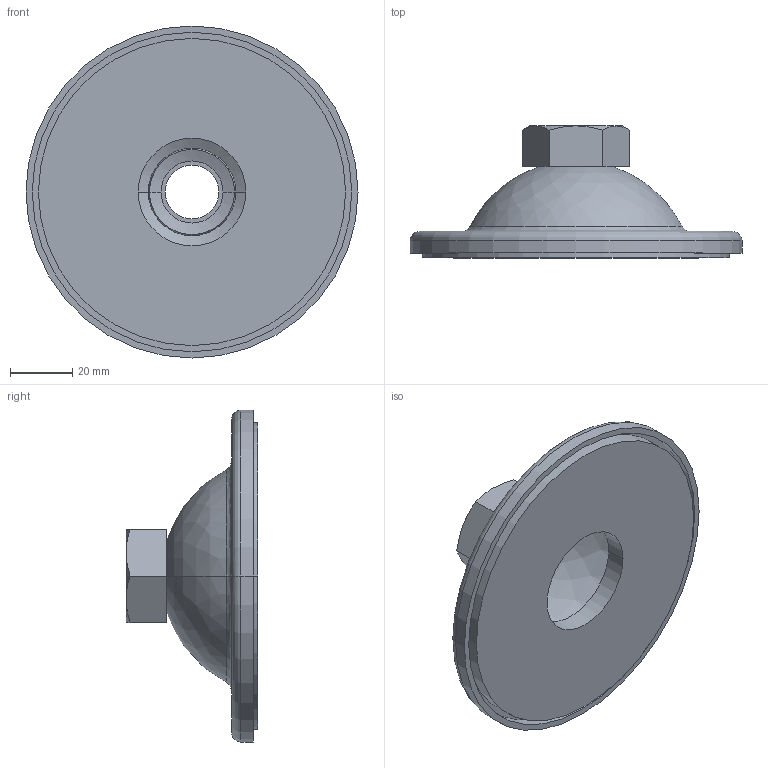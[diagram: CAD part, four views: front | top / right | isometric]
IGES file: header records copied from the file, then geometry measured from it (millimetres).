
Start section:  PTC IGES file: S-HCS-20.igs
Global section: file name: S-HCS-20.igs; native system: Creo Parametric by Parametric Technology Corporation; preprocessor: 2012360; author: xeon_3; organization: Unknown; date: 20130822.154718; units: millimetre
Bounding box: 107 x 42.5 x 107 mm (x, y, z)
Volume: 75219.2 mm3; surface area: 35467.4 mm2
Topology: 1 solids, 1 shells, 46 faces, 96 edges, 58 vertices
Faces by surface type: revolution 32, bspline 14
